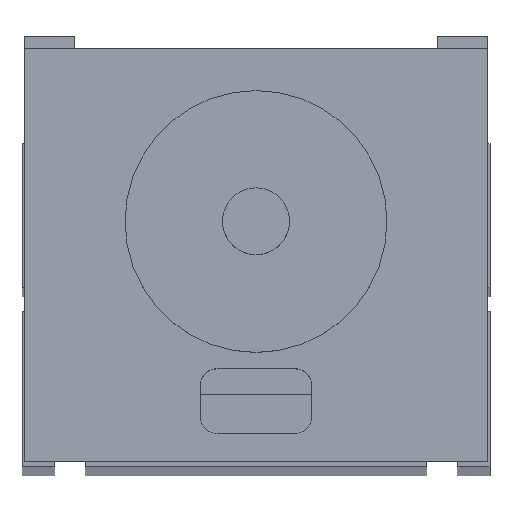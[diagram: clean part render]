
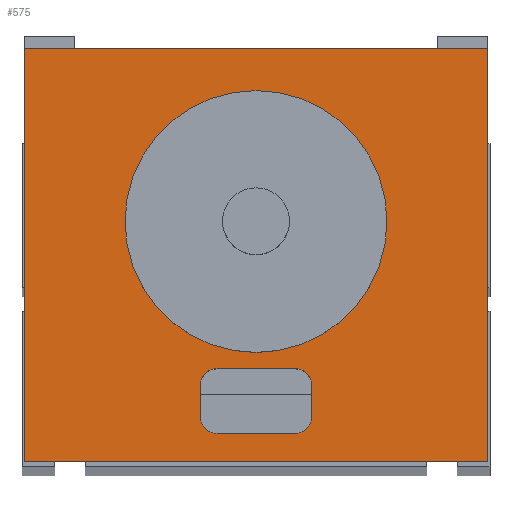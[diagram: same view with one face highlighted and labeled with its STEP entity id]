
A CAD part, top view. The second image highlights one B-rep face of the part: STEP entity #575.
In plain terms, the highlighted planar face has unit normal (0, 0, 1).
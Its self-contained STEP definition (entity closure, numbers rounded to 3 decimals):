
#4 = VERTEX_POINT ( 'NONE', #1691 ) ;
#5 = VERTEX_POINT ( 'NONE', #1690 ) ;
#9 = EDGE_CURVE ( 'NONE', #5, #4, #1678, .T. ) ;
#79 = EDGE_CURVE ( 'NONE', #2513, #434, #1807, .T. ) ;
#82 = EDGE_CURVE ( 'NONE', #488, #5, #1809, .T. ) ;
#83 = ORIENTED_EDGE ( 'NONE', *, *, #565, .F. ) ;
#87 = ORIENTED_EDGE ( 'NONE', *, *, #9, .F. ) ;
#89 = ORIENTED_EDGE ( 'NONE', *, *, #82, .F. ) ;
#91 = ORIENTED_EDGE ( 'NONE', *, *, #2582, .F. ) ;
#92 = ORIENTED_EDGE ( 'NONE', *, *, #79, .F. ) ;
#94 = ORIENTED_EDGE ( 'NONE', *, *, #107, .F. ) ;
#98 = EDGE_LOOP ( 'NONE', ( #579, #560, #94, #87, #89, #83, #92, #91 ) ) ;
#99 = EDGE_CURVE ( 'NONE', #474, #2577, #1791, .T. ) ;
#100 = EDGE_CURVE ( 'NONE', #367, #567, #1844, .T. ) ;
#101 = ORIENTED_EDGE ( 'NONE', *, *, #578, .T. ) ;
#102 = ORIENTED_EDGE ( 'NONE', *, *, #100, .T. ) ;
#103 = EDGE_LOOP ( 'NONE', ( #581, #577, #102, #101 ) ) ;
#104 = EDGE_CURVE ( 'NONE', #105, #474, #1847, .T. ) ;
#105 = VERTEX_POINT ( 'NONE', #1833 ) ;
#107 = EDGE_CURVE ( 'NONE', #4, #105, #1834, .T. ) ;
#367 = VERTEX_POINT ( 'NONE', #2272 ) ;
#434 = VERTEX_POINT ( 'NONE', #2407 ) ;
#474 = VERTEX_POINT ( 'NONE', #2666 ) ;
#477 = EDGE_CURVE ( 'NONE', #481, #367, #2714, .T. ) ;
#481 = VERTEX_POINT ( 'NONE', #2658 ) ;
#488 = VERTEX_POINT ( 'NONE', #2654 ) ;
#560 = ORIENTED_EDGE ( 'NONE', *, *, #104, .F. ) ;
#565 = EDGE_CURVE ( 'NONE', #434, #488, #2825, .T. ) ;
#567 = VERTEX_POINT ( 'NONE', #2820 ) ;
#575 = ADVANCED_FACE ( 'NONE', ( #2861, #2813 ), #2833, .F. ) ;
#576 = VERTEX_POINT ( 'NONE', #2829 ) ;
#577 = ORIENTED_EDGE ( 'NONE', *, *, #477, .T. ) ;
#578 = EDGE_CURVE ( 'NONE', #567, #576, #2812, .T. ) ;
#579 = ORIENTED_EDGE ( 'NONE', *, *, #99, .F. ) ;
#580 = EDGE_CURVE ( 'NONE', #576, #481, #2849, .T. ) ;
#581 = ORIENTED_EDGE ( 'NONE', *, *, #580, .T. ) ;
#1675 = DIRECTION ( 'NONE',  ( 0., 1., 0. ) ) ;
#1676 = VECTOR ( 'NONE', #1675, 1000. ) ;
#1677 = CARTESIAN_POINT ( 'NONE',  ( 51.5, 8., 30. ) ) ;
#1678 = LINE ( 'NONE', #1677, #1676 ) ;
#1690 = CARTESIAN_POINT ( 'NONE',  ( 51.5, 8., 30. ) ) ;
#1691 = CARTESIAN_POINT ( 'NONE',  ( 51.5, 13.6, 30. ) ) ;
#1752 = AXIS2_PLACEMENT_3D ( 'NONE', #1803, #1796, #1795 ) ;
#1755 = CARTESIAN_POINT ( 'NONE',  ( 34.5, 8., 30. ) ) ;
#1791 = CIRCLE ( 'NONE', #1842, 3. ) ;
#1795 = DIRECTION ( 'NONE',  ( -1., 0., 0. ) ) ;
#1796 = DIRECTION ( 'NONE',  ( 0., 0., 1. ) ) ;
#1803 = CARTESIAN_POINT ( 'NONE',  ( 48.5, 8., 30. ) ) ;
#1804 = DIRECTION ( 'NONE',  ( 1., 0., 0. ) ) ;
#1805 = DIRECTION ( 'NONE',  ( 0., 0., 1. ) ) ;
#1806 = AXIS2_PLACEMENT_3D ( 'NONE', #1755, #1805, #1804 ) ;
#1807 = CIRCLE ( 'NONE', #1806, 3. ) ;
#1809 = CIRCLE ( 'NONE', #1752, 3. ) ;
#1822 = DIRECTION ( 'NONE',  ( 1., 0., 0. ) ) ;
#1823 = DIRECTION ( 'NONE',  ( 0., 0., 1. ) ) ;
#1824 = CARTESIAN_POINT ( 'NONE',  ( 48.5, 13.6, 30. ) ) ;
#1830 = DIRECTION ( 'NONE',  ( -1., 0., 0. ) ) ;
#1832 = AXIS2_PLACEMENT_3D ( 'NONE', #1824, #1823, #1822 ) ;
#1833 = CARTESIAN_POINT ( 'NONE',  ( 48.5, 16.6, 30. ) ) ;
#1834 = CIRCLE ( 'NONE', #1832, 3. ) ;
#1836 = DIRECTION ( 'NONE',  ( 0., 1., 0. ) ) ;
#1837 = VECTOR ( 'NONE', #1836, 1000. ) ;
#1839 = DIRECTION ( 'NONE',  ( -1., 0., 0. ) ) ;
#1840 = DIRECTION ( 'NONE',  ( 0., 0., 1. ) ) ;
#1841 = CARTESIAN_POINT ( 'NONE',  ( 34.5, 13.6, 30. ) ) ;
#1842 = AXIS2_PLACEMENT_3D ( 'NONE', #1841, #1840, #1839 ) ;
#1843 = CARTESIAN_POINT ( 'NONE',  ( 83., 0., 30. ) ) ;
#1844 = LINE ( 'NONE', #1843, #1837 ) ;
#1845 = VECTOR ( 'NONE', #1830, 1000. ) ;
#1846 = CARTESIAN_POINT ( 'NONE',  ( 34.5, 16.6, 30. ) ) ;
#1847 = LINE ( 'NONE', #1846, #1845 ) ;
#2272 = CARTESIAN_POINT ( 'NONE',  ( 83., 0., 30. ) ) ;
#2407 = CARTESIAN_POINT ( 'NONE',  ( 34.5, 5., 30. ) ) ;
#2513 = VERTEX_POINT ( 'NONE', #4750 ) ;
#2577 = VERTEX_POINT ( 'NONE', #4828 ) ;
#2582 = EDGE_CURVE ( 'NONE', #2577, #2513, #4883, .T. ) ;
#2654 = CARTESIAN_POINT ( 'NONE',  ( 48.5, 5., 30. ) ) ;
#2658 = CARTESIAN_POINT ( 'NONE',  ( 0., 0., 30. ) ) ;
#2666 = CARTESIAN_POINT ( 'NONE',  ( 34.5, 16.6, 30. ) ) ;
#2711 = DIRECTION ( 'NONE',  ( 1., 0., 0. ) ) ;
#2712 = VECTOR ( 'NONE', #2711, 1000. ) ;
#2713 = CARTESIAN_POINT ( 'NONE',  ( 0., 0., 30. ) ) ;
#2714 = LINE ( 'NONE', #2713, #2712 ) ;
#2811 = AXIS2_PLACEMENT_3D ( 'NONE', #2860, #2856, #2855 ) ;
#2812 = LINE ( 'NONE', #2853, #2852 ) ;
#2813 = FACE_BOUND ( 'NONE', #98, .T. ) ;
#2820 = CARTESIAN_POINT ( 'NONE',  ( 83., 74., 30. ) ) ;
#2822 = DIRECTION ( 'NONE',  ( 1., 0., 0. ) ) ;
#2823 = VECTOR ( 'NONE', #2822, 1000. ) ;
#2824 = CARTESIAN_POINT ( 'NONE',  ( 34.5, 5., 30. ) ) ;
#2825 = LINE ( 'NONE', #2824, #2823 ) ;
#2829 = CARTESIAN_POINT ( 'NONE',  ( 0., 74., 30. ) ) ;
#2833 = PLANE ( 'NONE',  #2811 ) ;
#2846 = DIRECTION ( 'NONE',  ( 0., -1., 0. ) ) ;
#2847 = VECTOR ( 'NONE', #2846, 1000. ) ;
#2848 = CARTESIAN_POINT ( 'NONE',  ( 0., 0., 30. ) ) ;
#2849 = LINE ( 'NONE', #2848, #2847 ) ;
#2851 = DIRECTION ( 'NONE',  ( -1., 0., 0. ) ) ;
#2852 = VECTOR ( 'NONE', #2851, 1000. ) ;
#2853 = CARTESIAN_POINT ( 'NONE',  ( 0., 74., 30. ) ) ;
#2855 = DIRECTION ( 'NONE',  ( -1., 0., 0. ) ) ;
#2856 = DIRECTION ( 'NONE',  ( 0., 0., -1. ) ) ;
#2860 = CARTESIAN_POINT ( 'NONE',  ( 0., 74., 30. ) ) ;
#2861 = FACE_OUTER_BOUND ( 'NONE', #103, .T. ) ;
#4750 = CARTESIAN_POINT ( 'NONE',  ( 31.5, 8., 30. ) ) ;
#4828 = CARTESIAN_POINT ( 'NONE',  ( 31.5, 13.6, 30. ) ) ;
#4878 = DIRECTION ( 'NONE',  ( 0., -1., 0. ) ) ;
#4879 = VECTOR ( 'NONE', #4878, 1000. ) ;
#4882 = CARTESIAN_POINT ( 'NONE',  ( 31.5, 8., 30. ) ) ;
#4883 = LINE ( 'NONE', #4882, #4879 ) ;
